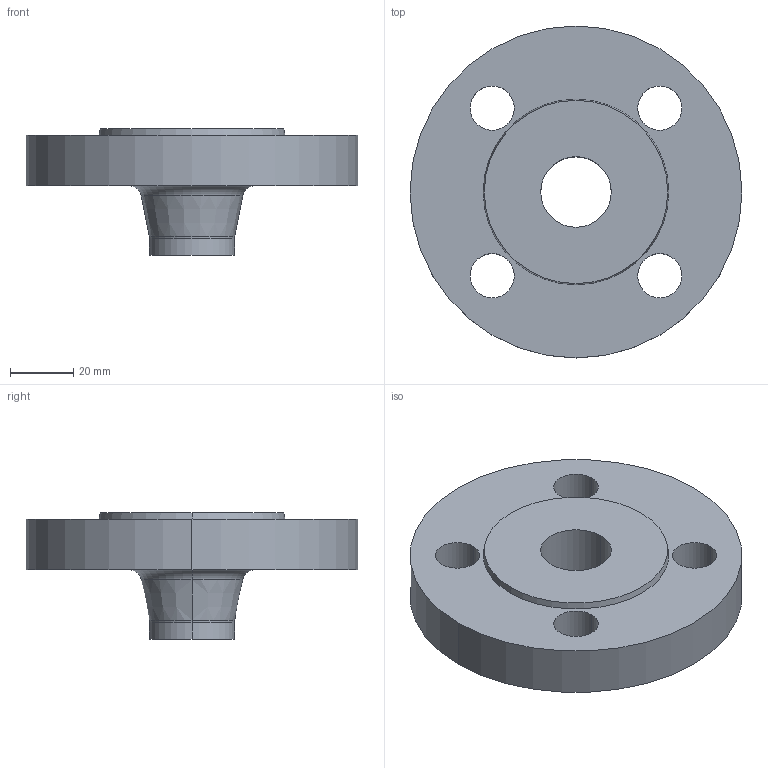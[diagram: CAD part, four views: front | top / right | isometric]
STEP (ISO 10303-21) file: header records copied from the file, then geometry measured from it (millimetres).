
FILE_DESCRIPTION (( 'STEP AP214' ), '1' );
FILE_NAME ('PN40 DN20 Type 11 - Type B Face.STEP', '2018-12-29T18:21:06', ( '' ), ( '' ), 'SwSTEP 2.0', 'SolidWorks 2019', '' );
FILE_SCHEMA (( 'AUTOMOTIVE_DESIGN' ));
Length unit declared in the file: millimetre
Products named in the file (1): PN40 DN20 Type 11 - Type B Face
Bounding box: 105 x 105 x 40 mm (x, y, z)
Volume: 133600.4 mm3; surface area: 28149.4 mm2
Topology: 1 solids, 1 shells, 26 faces, 60 edges, 38 vertices
Faces by surface type: cylinder 14, cone 4, torus 4, plane 4
Entity records: 812 total; most frequent: DIRECTION 156, CARTESIAN_POINT 125, ORIENTED_EDGE 120, AXIS2_PLACEMENT_3D 69, EDGE_CURVE 60, CIRCLE 42, EDGE_LOOP 38, VERTEX_POINT 38
